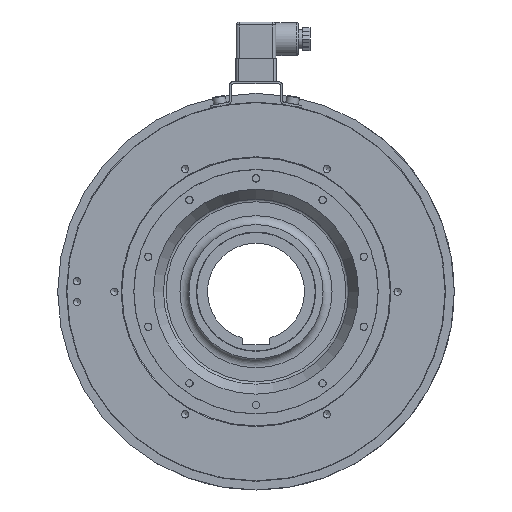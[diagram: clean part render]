
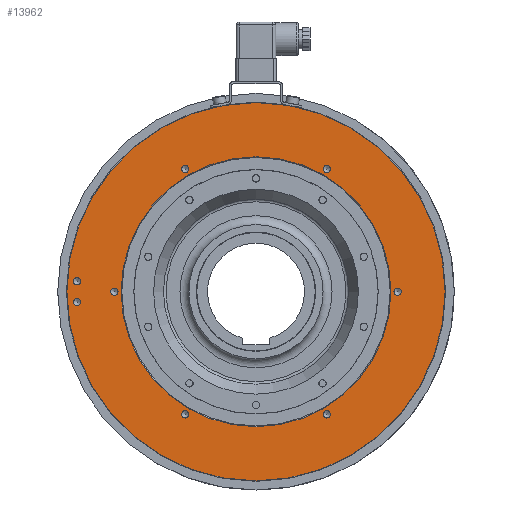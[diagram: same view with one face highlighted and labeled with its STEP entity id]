
A CAD part, left-side view. The second image highlights one B-rep face of the part: STEP entity #13962.
In plain terms, the highlighted planar face has unit normal (-1, 0, 0).
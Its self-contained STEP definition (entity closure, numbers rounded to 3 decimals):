
#1176=FACE_BOUND('',#3046,.T.);
#1177=FACE_BOUND('',#3047,.T.);
#1178=FACE_BOUND('',#3048,.T.);
#1179=FACE_BOUND('',#3049,.T.);
#1180=FACE_BOUND('',#3050,.T.);
#1181=FACE_BOUND('',#3051,.T.);
#1182=FACE_BOUND('',#3052,.T.);
#1183=FACE_BOUND('',#3053,.T.);
#1184=FACE_BOUND('',#3054,.T.);
#1452=PLANE('',#15692);
#2149=FACE_OUTER_BOUND('',#3045,.T.);
#3045=EDGE_LOOP('',(#12806,#12807,#12808));
#3046=EDGE_LOOP('',(#12809,#12810));
#3047=EDGE_LOOP('',(#12811,#12812));
#3048=EDGE_LOOP('',(#12813,#12814));
#3049=EDGE_LOOP('',(#12815,#12816));
#3050=EDGE_LOOP('',(#12817,#12818));
#3051=EDGE_LOOP('',(#12819,#12820));
#3052=EDGE_LOOP('',(#12821,#12822));
#3053=EDGE_LOOP('',(#12823,#12824));
#3054=EDGE_LOOP('',(#12825));
#5642=CIRCLE('',#15490,126.85);
#5643=CIRCLE('',#15491,126.85);
#5720=CIRCLE('',#15641,2.459);
#5721=CIRCLE('',#15642,2.459);
#5724=CIRCLE('',#15647,2.459);
#5725=CIRCLE('',#15648,2.459);
#5730=CIRCLE('',#15656,2.459);
#5731=CIRCLE('',#15657,2.459);
#5734=CIRCLE('',#15662,2.459);
#5735=CIRCLE('',#15663,2.459);
#5738=CIRCLE('',#15668,2.459);
#5739=CIRCLE('',#15669,2.459);
#5742=CIRCLE('',#15674,2.459);
#5743=CIRCLE('',#15675,2.459);
#5746=CIRCLE('',#15680,2.459);
#5747=CIRCLE('',#15681,2.459);
#5750=CIRCLE('',#15686,2.459);
#5751=CIRCLE('',#15687,2.459);
#5754=CIRCLE('',#15691,90.5);
#5755=CIRCLE('',#15693,126.85);
#6889=VERTEX_POINT('',#23697);
#6890=VERTEX_POINT('',#23699);
#6891=VERTEX_POINT('',#23701);
#7041=VERTEX_POINT('',#24381);
#7042=VERTEX_POINT('',#24382);
#7045=VERTEX_POINT('',#24393);
#7046=VERTEX_POINT('',#24394);
#7052=VERTEX_POINT('',#24412);
#7053=VERTEX_POINT('',#24413);
#7057=VERTEX_POINT('',#24425);
#7058=VERTEX_POINT('',#24426);
#7062=VERTEX_POINT('',#24438);
#7063=VERTEX_POINT('',#24439);
#7067=VERTEX_POINT('',#24451);
#7068=VERTEX_POINT('',#24452);
#7072=VERTEX_POINT('',#24464);
#7073=VERTEX_POINT('',#24465);
#7077=VERTEX_POINT('',#24477);
#7078=VERTEX_POINT('',#24478);
#7081=VERTEX_POINT('',#24487);
#8749=EDGE_CURVE('',#6890,#6889,#5642,.T.);
#8750=EDGE_CURVE('',#6891,#6890,#5643,.T.);
#8968=EDGE_CURVE('',#7041,#7042,#5720,.T.);
#8969=EDGE_CURVE('',#7042,#7041,#5721,.T.);
#8974=EDGE_CURVE('',#7045,#7046,#5724,.T.);
#8975=EDGE_CURVE('',#7046,#7045,#5725,.T.);
#8983=EDGE_CURVE('',#7052,#7053,#5730,.T.);
#8984=EDGE_CURVE('',#7053,#7052,#5731,.T.);
#8989=EDGE_CURVE('',#7057,#7058,#5734,.T.);
#8990=EDGE_CURVE('',#7058,#7057,#5735,.T.);
#8995=EDGE_CURVE('',#7062,#7063,#5738,.T.);
#8996=EDGE_CURVE('',#7063,#7062,#5739,.T.);
#9001=EDGE_CURVE('',#7067,#7068,#5742,.T.);
#9002=EDGE_CURVE('',#7068,#7067,#5743,.T.);
#9007=EDGE_CURVE('',#7072,#7073,#5746,.T.);
#9008=EDGE_CURVE('',#7073,#7072,#5747,.T.);
#9013=EDGE_CURVE('',#7077,#7078,#5750,.T.);
#9014=EDGE_CURVE('',#7078,#7077,#5751,.T.);
#9019=EDGE_CURVE('',#7081,#7081,#5754,.T.);
#9020=EDGE_CURVE('',#6889,#6891,#5755,.T.);
#12806=ORIENTED_EDGE('',*,*,#8749,.T.);
#12807=ORIENTED_EDGE('',*,*,#9020,.T.);
#12808=ORIENTED_EDGE('',*,*,#8750,.T.);
#12809=ORIENTED_EDGE('',*,*,#8968,.T.);
#12810=ORIENTED_EDGE('',*,*,#8969,.T.);
#12811=ORIENTED_EDGE('',*,*,#8974,.T.);
#12812=ORIENTED_EDGE('',*,*,#8975,.T.);
#12813=ORIENTED_EDGE('',*,*,#8983,.T.);
#12814=ORIENTED_EDGE('',*,*,#8984,.T.);
#12815=ORIENTED_EDGE('',*,*,#8989,.T.);
#12816=ORIENTED_EDGE('',*,*,#8990,.T.);
#12817=ORIENTED_EDGE('',*,*,#8995,.T.);
#12818=ORIENTED_EDGE('',*,*,#8996,.T.);
#12819=ORIENTED_EDGE('',*,*,#9001,.T.);
#12820=ORIENTED_EDGE('',*,*,#9002,.T.);
#12821=ORIENTED_EDGE('',*,*,#9007,.T.);
#12822=ORIENTED_EDGE('',*,*,#9008,.T.);
#12823=ORIENTED_EDGE('',*,*,#9013,.T.);
#12824=ORIENTED_EDGE('',*,*,#9014,.T.);
#12825=ORIENTED_EDGE('',*,*,#9019,.F.);
#13962=ADVANCED_FACE('',(#2149,#1176,#1177,#1178,#1179,#1180,#1181,#1182,
#1183,#1184),#1452,.T.);
#15490=AXIS2_PLACEMENT_3D('',#23700,#19233,#19234);
#15491=AXIS2_PLACEMENT_3D('',#23702,#19235,#19236);
#15641=AXIS2_PLACEMENT_3D('',#24383,#19644,#19645);
#15642=AXIS2_PLACEMENT_3D('',#24384,#19646,#19647);
#15647=AXIS2_PLACEMENT_3D('',#24395,#19658,#19659);
#15648=AXIS2_PLACEMENT_3D('',#24396,#19660,#19661);
#15656=AXIS2_PLACEMENT_3D('',#24414,#19679,#19680);
#15657=AXIS2_PLACEMENT_3D('',#24415,#19681,#19682);
#15662=AXIS2_PLACEMENT_3D('',#24427,#19693,#19694);
#15663=AXIS2_PLACEMENT_3D('',#24428,#19695,#19696);
#15668=AXIS2_PLACEMENT_3D('',#24440,#19707,#19708);
#15669=AXIS2_PLACEMENT_3D('',#24441,#19709,#19710);
#15674=AXIS2_PLACEMENT_3D('',#24453,#19721,#19722);
#15675=AXIS2_PLACEMENT_3D('',#24454,#19723,#19724);
#15680=AXIS2_PLACEMENT_3D('',#24466,#19735,#19736);
#15681=AXIS2_PLACEMENT_3D('',#24467,#19737,#19738);
#15686=AXIS2_PLACEMENT_3D('',#24479,#19749,#19750);
#15687=AXIS2_PLACEMENT_3D('',#24480,#19751,#19752);
#15691=AXIS2_PLACEMENT_3D('',#24489,#19761,#19762);
#15692=AXIS2_PLACEMENT_3D('',#24490,#19763,#19764);
#15693=AXIS2_PLACEMENT_3D('',#24491,#19765,#19766);
#19233=DIRECTION('center_axis',(-1.,0.,0.));
#19234=DIRECTION('ref_axis',(0.,1.,0.));
#19235=DIRECTION('center_axis',(-1.,0.,0.));
#19236=DIRECTION('ref_axis',(0.,1.,0.));
#19644=DIRECTION('center_axis',(1.,0.,0.));
#19645=DIRECTION('ref_axis',(0.,0.,
1.));
#19646=DIRECTION('center_axis',(1.,0.,0.));
#19647=DIRECTION('ref_axis',(0.,0.,
1.));
#19658=DIRECTION('center_axis',(1.,0.,0.));
#19659=DIRECTION('ref_axis',(0.,0.,
1.));
#19660=DIRECTION('center_axis',(1.,0.,0.));
#19661=DIRECTION('ref_axis',(0.,0.,
1.));
#19679=DIRECTION('center_axis',(1.,0.,0.));
#19680=DIRECTION('ref_axis',(0.,0.,
1.));
#19681=DIRECTION('center_axis',(1.,0.,0.));
#19682=DIRECTION('ref_axis',(0.,0.,
1.));
#19693=DIRECTION('center_axis',(1.,0.,0.));
#19694=DIRECTION('ref_axis',(0.,0.,
1.));
#19695=DIRECTION('center_axis',(1.,0.,0.));
#19696=DIRECTION('ref_axis',(0.,0.,
1.));
#19707=DIRECTION('center_axis',(1.,0.,0.));
#19708=DIRECTION('ref_axis',(0.,0.,
1.));
#19709=DIRECTION('center_axis',(1.,0.,0.));
#19710=DIRECTION('ref_axis',(0.,0.,
1.));
#19721=DIRECTION('center_axis',(1.,0.,0.));
#19722=DIRECTION('ref_axis',(0.,0.,
1.));
#19723=DIRECTION('center_axis',(1.,0.,0.));
#19724=DIRECTION('ref_axis',(0.,0.,
1.));
#19735=DIRECTION('center_axis',(1.,0.,0.));
#19736=DIRECTION('ref_axis',(0.,0.,
1.));
#19737=DIRECTION('center_axis',(1.,0.,0.));
#19738=DIRECTION('ref_axis',(0.,0.,
1.));
#19749=DIRECTION('center_axis',(1.,0.,0.));
#19750=DIRECTION('ref_axis',(0.,0.,
1.));
#19751=DIRECTION('center_axis',(1.,0.,0.));
#19752=DIRECTION('ref_axis',(0.,0.,
1.));
#19761=DIRECTION('center_axis',(-1.,0.,0.));
#19762=DIRECTION('ref_axis',(0.,-1.,0.));
#19763=DIRECTION('center_axis',(-1.,0.,0.));
#19764=DIRECTION('ref_axis',(0.,0.,
1.));
#19765=DIRECTION('center_axis',(-1.,0.,0.));
#19766=DIRECTION('ref_axis',(0.,1.,0.));
#23697=CARTESIAN_POINT('',(-19.,-126.85,0.));
#23699=CARTESIAN_POINT('',(-19.,126.85,0.));
#23700=CARTESIAN_POINT('Origin',(-19.,0.,0.));
#23701=CARTESIAN_POINT('',(-19.,-22.027,124.923));
#23702=CARTESIAN_POINT('Origin',(-19.,0.,0.));
#24381=CARTESIAN_POINT('',(-19.,120.,9.459));
#24382=CARTESIAN_POINT('',(-19.,120.,4.542));
#24383=CARTESIAN_POINT('Origin',(-19.,120.,7.));
#24384=CARTESIAN_POINT('Origin',(-19.,120.,7.));
#24393=CARTESIAN_POINT('',(-19.,120.,-4.542));
#24394=CARTESIAN_POINT('',(-19.,120.,-9.459));
#24395=CARTESIAN_POINT('Origin',(-19.,120.,-7.));
#24396=CARTESIAN_POINT('Origin',(-19.,120.,-7.));
#24412=CARTESIAN_POINT('',(-19.,47.5,84.731));
#24413=CARTESIAN_POINT('',(-19.,47.5,79.814));
#24414=CARTESIAN_POINT('Origin',(-19.,47.5,82.272));
#24415=CARTESIAN_POINT('Origin',(-19.,47.5,82.272));
#24425=CARTESIAN_POINT('',(-19.,-47.5,84.731));
#24426=CARTESIAN_POINT('',(-19.,-47.5,79.814));
#24427=CARTESIAN_POINT('Origin',(-19.,-47.5,82.272));
#24428=CARTESIAN_POINT('Origin',(-19.,-47.5,82.272));
#24438=CARTESIAN_POINT('',(-19.,-95.,2.458));
#24439=CARTESIAN_POINT('',(-19.,-95.,-2.459));
#24440=CARTESIAN_POINT('Origin',(-19.,-95.,0.));
#24441=CARTESIAN_POINT('Origin',(-19.,-95.,0.));
#24451=CARTESIAN_POINT('',(-19.,-47.5,-79.814));
#24452=CARTESIAN_POINT('',(-19.,-47.5,-84.731));
#24453=CARTESIAN_POINT('Origin',(-19.,-47.5,-82.272));
#24454=CARTESIAN_POINT('Origin',(-19.,-47.5,-82.272));
#24464=CARTESIAN_POINT('',(-19.,47.5,-79.814));
#24465=CARTESIAN_POINT('',(-19.,47.5,-84.731));
#24466=CARTESIAN_POINT('Origin',(-19.,47.5,-82.272));
#24467=CARTESIAN_POINT('Origin',(-19.,47.5,-82.272));
#24477=CARTESIAN_POINT('',(-19.,95.,2.459));
#24478=CARTESIAN_POINT('',(-19.,95.,-2.459));
#24479=CARTESIAN_POINT('Origin',(-19.,95.,0.));
#24480=CARTESIAN_POINT('Origin',(-19.,95.,0.));
#24487=CARTESIAN_POINT('',(-19.,90.5,0.));
#24489=CARTESIAN_POINT('Origin',(-19.,0.,0.));
#24490=CARTESIAN_POINT('Origin',(-19.,108.425,0.));
#24491=CARTESIAN_POINT('Origin',(-19.,0.,0.));
